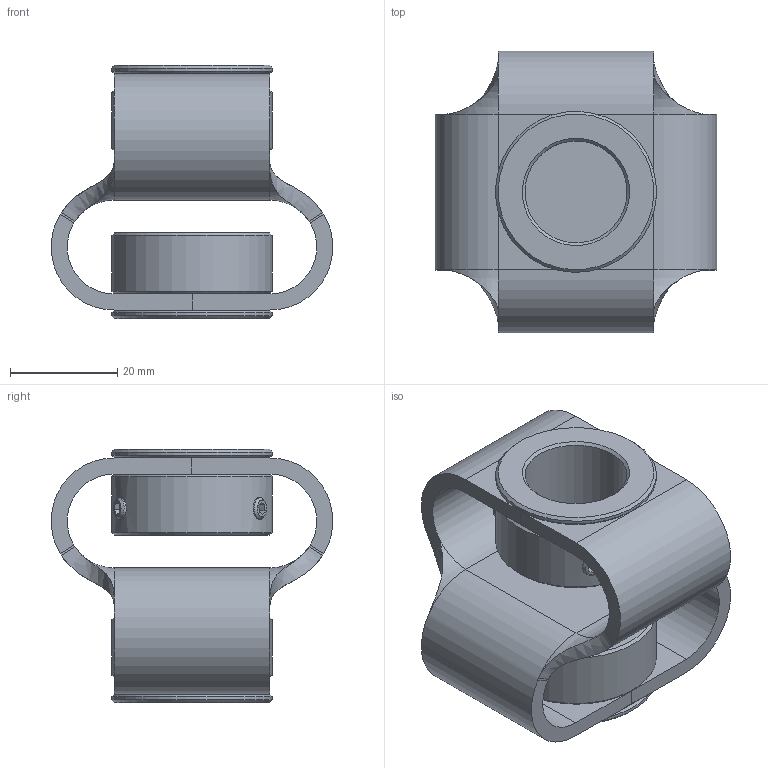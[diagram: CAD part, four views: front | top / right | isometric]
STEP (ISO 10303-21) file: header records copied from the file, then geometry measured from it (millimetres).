
FILE_DESCRIPTION(/* description */ ('Stern'),/* implementation_level */ '2;1');
FILE_NAME(/* name */ 'Z:\ABP-Antriebstechnik\Entwicklung-3D\Paguflex\DKPSX5658\DKPSX5658 12 19.stp',/* time_stamp */ '2021-06-21T11:53:48+02:00',/* author */ ('christian.fehrenbach'),/* organization */ (''),/* preprocessor_version */ 'ST-DEVELOPER v16.1',/* originating_system */ 'Autodesk Inventor 2016',/* authorisation */ '');
FILE_SCHEMA (('AUTOMOTIVE_DESIGN { 1 0 10303 214 3 1 1 }'));
Length unit declared in the file: millimetre
Products named in the file (5): DKPS 5658 Stern gebogen; Schraubnabe 2915 12; Schraubnabe 2915 19; DIN 916 - M4  x  6; DKPSX5658 12 19
Assembly tree (7 placements, depth 2):
  DKPSX5658 12 19
    DKPS 5658 Stern gebogen
    Schraubnabe 2915 12
    Schraubnabe 2915 19
    DIN 916 - M4  x  6  x4
Bounding box: 52.48 x 52.48 x 47.2 mm (x, y, z)
Volume: 30813.3 mm3; surface area: 20899.3 mm2
Topology: 7 solids, 11 shells, 158 faces, 342 edges, 194 vertices
Faces by surface type: plane 82, cylinder 28, cone 28, bspline 12, torus 8
Full cylindrical faces by diameter (mm): 4 x4, 4.134 x4, 12 x1, 19 x1, 22 x2, 30 x4
Entity records: 3371 total; most frequent: CARTESIAN_POINT 1120, DIRECTION 442, ORIENTED_EDGE 408, EDGE_CURVE 196, AXIS2_PLACEMENT_3D 182, EDGE_LOOP 148, VERTEX_POINT 128, FACE_OUTER_BOUND 104
